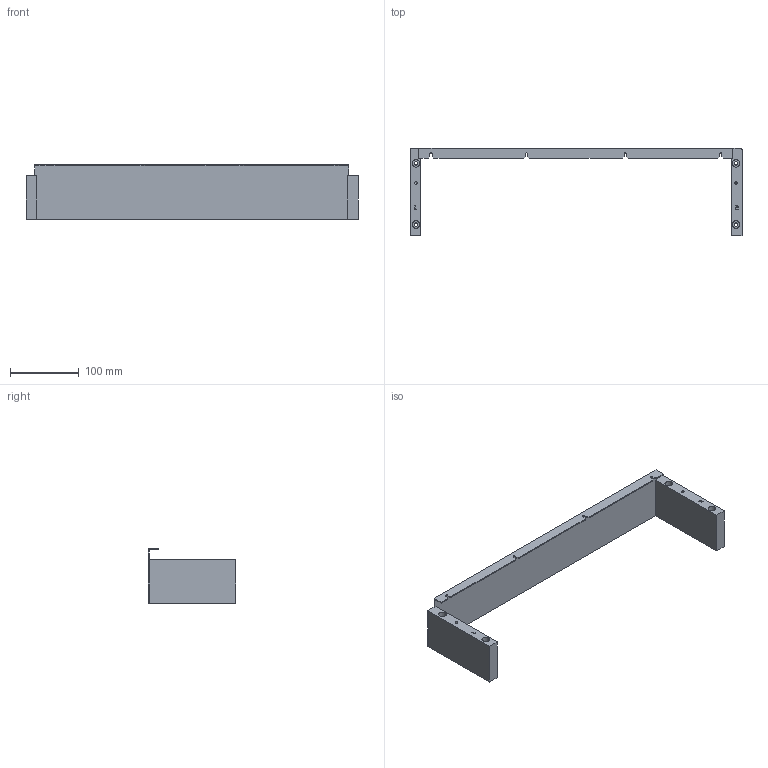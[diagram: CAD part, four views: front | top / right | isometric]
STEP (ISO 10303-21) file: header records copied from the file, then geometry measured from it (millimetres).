
FILE_DESCRIPTION (( 'STEP AP214' ), '1' );
FILE_NAME ('310113548.STEP', '2026-07-13T20:27:33', ( 'VPC Computer Systems' ), ( 'Virginia Panel Corporation' ), 'SwSTEP 2.0', 'SolidWorks 2025', '' );
FILE_SCHEMA (( 'AUTOMOTIVE_DESIGN' ));
Length unit declared in the file: inch
Products named in the file (1): 310113548
Bounding box: 482.6 x 126.97 x 79.38 mm (x, y, z)
Volume: 297500.6 mm3; surface area: 138018.6 mm2
Topology: 1 solids, 9 shells, 219 faces, 561 edges, 357 vertices
Faces by surface type: plane 126, cylinder 48, cone 40, bspline 5
Entity records: 6876 total; most frequent: CARTESIAN_POINT 1515, ORIENTED_EDGE 1098, DIRECTION 1089, EDGE_CURVE 549, LINE 403, VECTOR 403, VERTEX_POINT 357, AXIS2_PLACEMENT_3D 343
